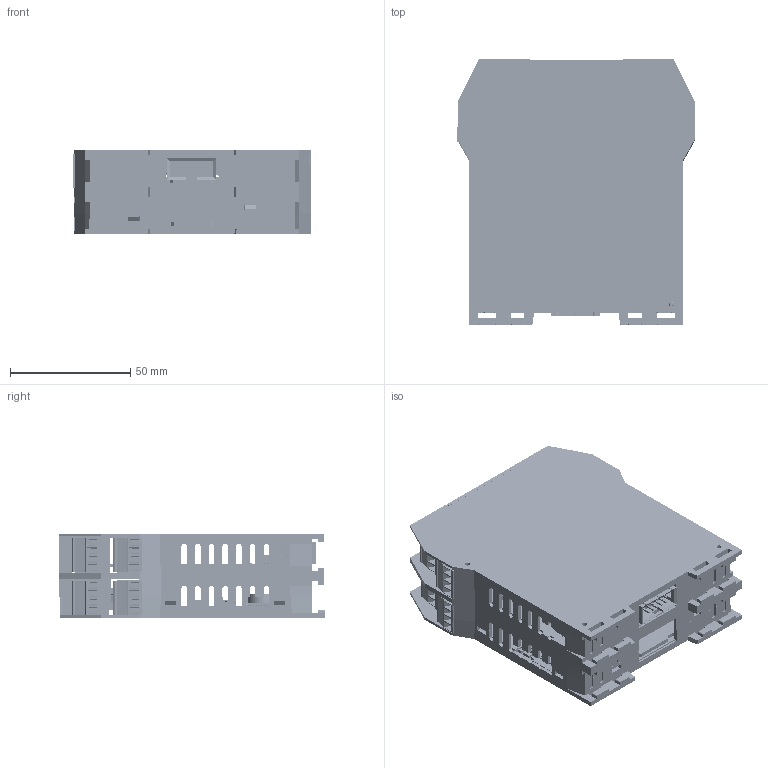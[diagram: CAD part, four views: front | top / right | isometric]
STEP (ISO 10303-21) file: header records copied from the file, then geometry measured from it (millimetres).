
FILE_DESCRIPTION(/* description */ ('STEP AP203','CAx-IF Rec.Pracs.---Representation and Presentation of Product Manufacturing Information (PMI)---4.0---2014-10-13'),/* implementation_level */ '2;1');
FILE_NAME(/* name */ 'C:\Users\zambolin\Desktop\Z-RT_3D\3D COMPLETO\Z-TWS4-RT\DM00207-0.stp',/* time_stamp */ '2024-03-20T10:00:41+01:00',/* author */ ('zambolin'),/* organization */ ('Default Math Test organization'),/* preprocessor_version */ 'ST-DEVELOPER v18.1',/* originating_system */ 'Autodesk Inventor 2022',/* authorisation */ 'Default Math Test authization');
FILE_SCHEMA (('AP242_MANAGED_MODEL_BASED_3D_ENGINEERING_MIM_LF { 1 0 10303 442 1 1 4 }'));
Products named in the file (58): Z-TWS4-RT_almostCompleted; NONE_2; NONE_1; NONE; PCB; Open CASCADE STEP translator 7.5 2.1.1; 4359082784; TPK9; TPK8; TPK7; TPK6; TPK5; TPK4; TPK3; TPK2; TPK1; NONE_5; NONE_4; NONE_3; PCB_1; Open CASCADE STEP translator 7.5 1.1.1; PV04-3,5-LDL-P; Cylinder_2; 0603 SMD Resistor; 0402 SMD Resistor; Strip SMD 1x3 1241150-3; Interruttore Slide SMD; CLT-106-02-F-D-BE; CLT-106-02-F-D-BE_socket; Parte30; KPA3010GCCK_GREEN; IDC-10M; User Library-IDC-10M_IDC_pin___ _________; Parte34; PV04-3,5-LSL-P; TP43; Cylinder; Cylinder_1; NONE_8; NONE_7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
Assembly tree (113 placements, depth 7):
  Z-TWS4-RT_almostCompleted
    NONE_2
      NONE_1
        NONE
          PCB
            Open CASCADE STEP translator 7.5 2.1.1
            4359082784  x3
            KPA3010GCCK_GREEN  x8
            TPK9
              Cylinder
              Cylinder_1
            TPK8
              Cylinder
              Cylinder_1
            TPK7
              Cylinder
              Cylinder_1
            TPK6
              Cylinder
              Cylinder_1
            TPK5
              Cylinder
              Cylinder_1
            TPK4
              Cylinder
              Cylinder_1
            TPK3
              Cylinder
              Cylinder_1
            TPK2
              Cylinder
              Cylinder_1
            TPK1
              Cylinder
              Cylinder_1
    NONE_5
      NONE_4
        NONE_3
          PCB_1
            Open CASCADE STEP translator 7.5 1.1.1
            PV04-3,5-LSL-P  x2
            PV04-3,5-LDL-P  x2
            Cylinder_2  x2
            0402 SMD Resistor  x2
            0603 SMD Resistor
            Strip SMD 1x3 1241150-3  x3
            Interruttore Slide SMD
            CLT-106-02-F-D-BE
              CLT-106-02-F-D-BE_socket
              Parte30
            KPA3010GCCK_GREEN  x8
            IDC-10M
              User Library-IDC-10M_IDC_pin___ _________  x10
              Parte34
            TP43
              Cylinder
              Cylinder_1
    NONE_8
      NONE_7
        NONE_6
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Bounding box: 98.73 x 110.18 x 35.04 mm (x, y, z)
Volume: 100155.7 mm3; surface area: 141290.8 mm2
Topology: 146 solids, 161 shells, 11027 faces, 30086 edges, 19378 vertices
Faces by surface type: plane 8793, cylinder 1653, bspline 280, cone 125, torus 114, sphere 62
Full cylindrical faces by diameter (mm): 0.35 x1, 0.6 x4, 0.636 x10, 0.65 x4, 0.8 x2, 0.888 x2, 0.889 x5, 0.9 x84, 1 x23, 1.016 x8, 1.1 x2, 1.2 x56, 1.3 x4, 1.4 x13, 1.7 x2, 1.8 x28, 1.9 x4, 2 x6, 2.1 x2, 2.8 x30, 3 x28, 3.2 x5, 3.25 x2, 3.4 x1, 11.5 x1
Entity records: 213097 total; most frequent: CARTESIAN_POINT 49557, ORIENTED_EDGE 33616, DIRECTION 31648, EDGE_CURVE 16820, LINE 14104, VECTOR 14104, VERTEX_POINT 10865, AXIS2_PLACEMENT_3D 8772
